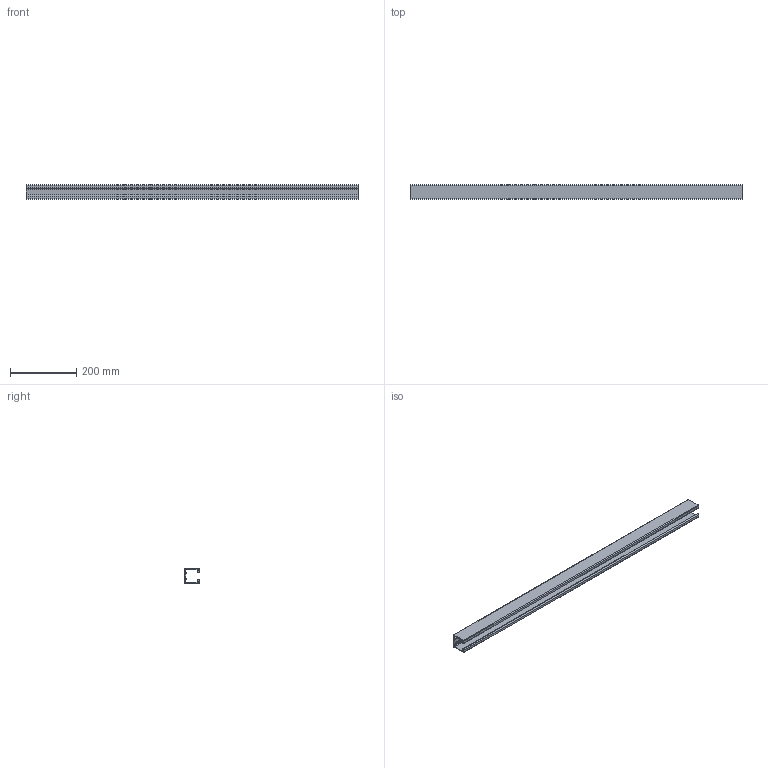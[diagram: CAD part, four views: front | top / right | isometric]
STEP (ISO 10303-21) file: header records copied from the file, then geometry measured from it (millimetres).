
FILE_DESCRIPTION (( 'STEP AP214' ), '1' );
FILE_NAME ('1.0055 Liukuoviprofiili 1000mm.STEP', '2025-09-02T08:42:33', ( '' ), ( '' ), 'SwSTEP 2.0', 'SolidWorks 2025', '' );
FILE_SCHEMA (( 'AUTOMOTIVE_DESIGN' ));
Length unit declared in the file: millimetre
Products named in the file (1): 1.0055 Liukuoviprofiili 1000mm
Bounding box: 1000 x 45 x 45 mm (x, y, z)
Volume: 528309.4 mm3; surface area: 311543.4 mm2
Topology: 1 solids, 1 shells, 38 faces, 108 edges, 72 vertices
Faces by surface type: plane 23, cylinder 15
Entity records: 1683 total; most frequent: CARTESIAN_POINT 219, ORIENTED_EDGE 216, DIRECTION 216, EDGE_CURVE 108, LINE 78, VECTOR 78, VERTEX_POINT 72, AXIS2_PLACEMENT_3D 69
